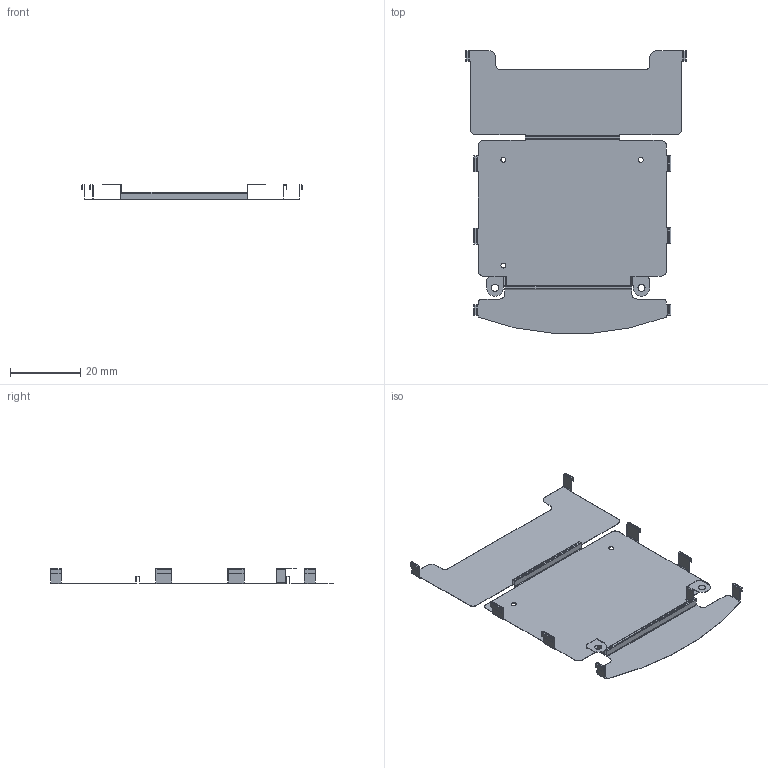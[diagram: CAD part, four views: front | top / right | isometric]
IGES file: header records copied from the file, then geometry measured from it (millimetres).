
Start section:  PTC IGES file: shield_cf_cover_prt.igs
Global section: file name: shield_cf_cover_prt.igs; native system: Pro/ENGINEER by Parametric Technology Corporation; preprocessor: 2000030; author: ECaille; organization: Unknown; date: 000803.092133; units: millimetre
Bounding box: 62.58 x 80.26 x 4.5 mm (x, y, z)
Surface area: 8980.8 mm2 (no closed solid volume)
Topology: 0 solids, 0 shells, 234 faces, 2289 edges, 3184 vertices
Faces by surface type: bspline 133, revolution 101
